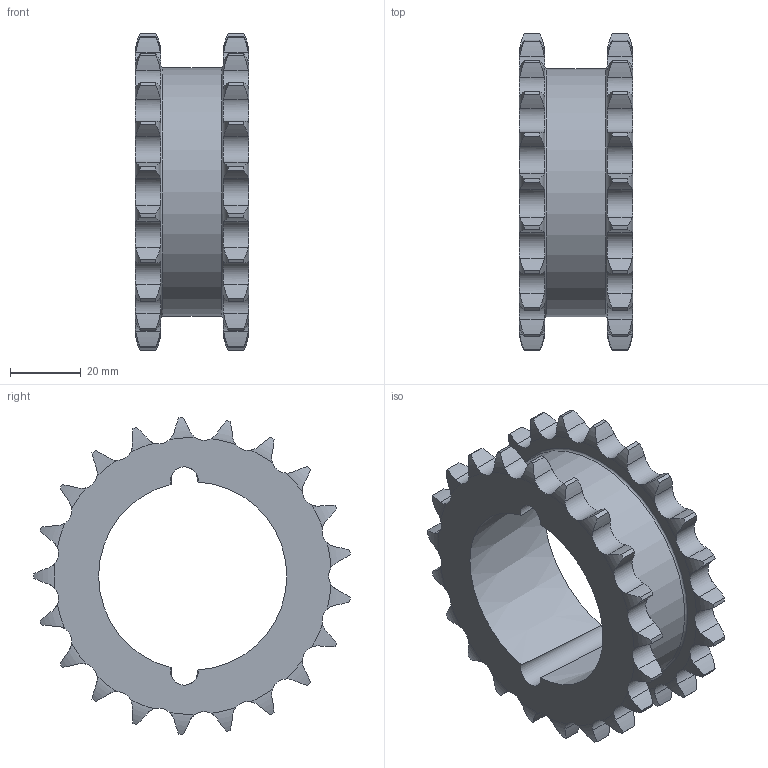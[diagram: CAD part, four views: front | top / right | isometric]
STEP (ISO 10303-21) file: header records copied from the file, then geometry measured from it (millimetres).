
FILE_DESCRIPTION(/* description */ (''),/* implementation_level */ '2;1');
FILE_NAME(/* name */ 'C:\Users\stagistaCAD\Desktop\27212021.stp',/* time_stamp */ '2018-06-25T09:11:15+02:00',/* author */ ('stagistacad'),/* organization */ (''),/* preprocessor_version */ 'ST-DEVELOPER v15.6',/* originating_system */ 'Autodesk Inventor 2015',/* authorisation */ '');
FILE_SCHEMA (('AUTOMOTIVE_DESIGN { 1 0 10303 214 3 1 1 }'));
Length unit declared in the file: millimetre
Products named in the file (1): 27212021
Bounding box: 32 x 89.28 x 89.53 mm (x, y, z)
Volume: 63331.7 mm3; surface area: 23160.8 mm2
Topology: 1 solids, 1 shells, 265 faces, 823 edges, 562 vertices
Faces by surface type: cylinder 172, torus 86, plane 4, cone 3
Full cylindrical faces by diameter (mm): 70 x1
Entity records: 10376 total; most frequent: CARTESIAN_POINT 3497, ORIENTED_EDGE 1640, DIRECTION 1234, EDGE_CURVE 820, VERTEX_POINT 562, AXIS2_PLACEMENT_3D 533, B_SPLINE_CURVE_WITH_KNOTS 385, EDGE_LOOP 272
